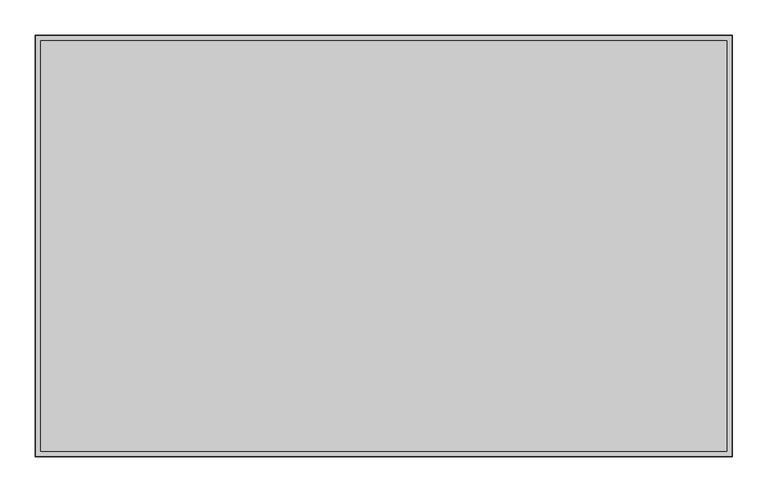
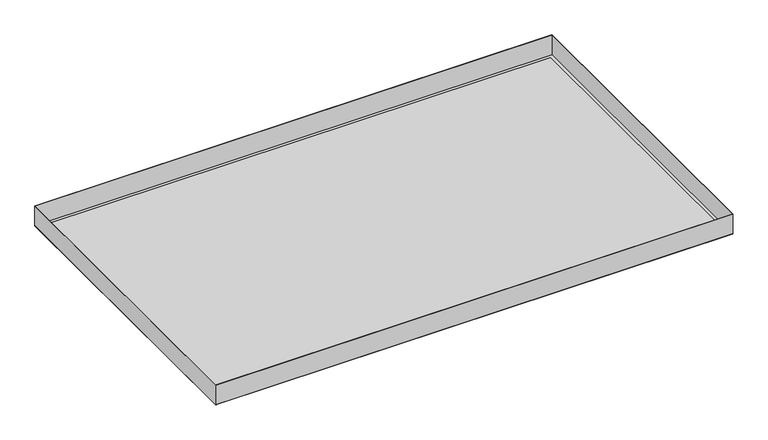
"""IFC4 building model written with IfcOpenShell, lengths in millimetres: proxy geometry, durlum_S7KS_panel : durlum_S7KS_panel."""

from ifc_helpers import new_model, si_unit, frame, origin, origin_with_axes, place, context, project, spatial, polyline, outline, extrude, source, transform, mapped, element, save


def generic_models_d625d08b(model_context):
    return source(origin(), model_context, "Body", "SweptSolid", [
        extrude(outline(polyline([(496.0, 299.75), (496.0, -299.75), (-496.0, -299.75), (-496.0, 299.75), (496.0, 299.75)]), holes=[polyline([(495.4, 299.15), (-495.4, 299.15), (-495.4, -299.15), (495.4, -299.15), (495.4, 299.15)])]), frame((0.0, 0.0, 0.6), z_axis=(0.0, 0.0, 1.0), x_axis=(1.0, 0.0, 0.0)), (0.0, 0.0, 1.0), 39.4),
        extrude(outline(polyline([(488.0, 291.75), (488.0, -291.75), (-488.0, -291.75), (-488.0, 291.75), (488.0, 291.75)])), frame((0.0, 0.0, 0.6), z_axis=(0.0, 0.0, 1.0), x_axis=(1.0, 0.0, 0.0)), (0.0, 0.0, 1.0), 0.6),
        extrude(outline(polyline([(496.0, 299.75), (496.0, -299.75), (-496.0, -299.75), (-496.0, 299.75), (496.0, 299.75)]), holes=[polyline([(488.0, 291.75), (-488.0, 291.75), (-488.0, -291.75), (488.0, -291.75), (488.0, 291.75)])]), origin_with_axes(), (0.0, 0.0, 1.0), 0.6),
        extrude(outline(polyline([(488.0, 291.75), (488.0, -291.75), (-488.0, -291.75), (-488.0, 291.75), (488.0, 291.75)])), origin_with_axes(), (0.0, 0.0, 1.0), 0.6),
    ])


if __name__ == "__main__":
    model = new_model("IFC4")
    model_context = context("Model", 3, world=origin())
    ifc_project = project(units=[si_unit("LENGTHUNIT", "METRE", prefix="MILLI")], contexts=[model_context])
    site = spatial("IfcSite", under=ifc_project)
    building = spatial("IfcBuilding", under=site)
    placement = place(None, origin())
    generic_models_shape = generic_models_d625d08b(model_context)
    element("IfcBuildingElementProxy", 1, Name="durlum_S7KS_panel : durlum_S7KS_panel", ObjectType="durlum_S7KS_panel : durlum_S7KS_panel", at=placement, inside=building, context=model_context, shape_type="MappedRepresentation", body=[
        mapped(generic_models_shape, transform((0.0, 0.0, 0.0), x_axis=(1.0, 0.0, 0.0), y_axis=(0.0, 1.0, 0.0), z_axis=(0.0, 0.0, 1.0))),
    ])
    save(model, "model.ifc")
